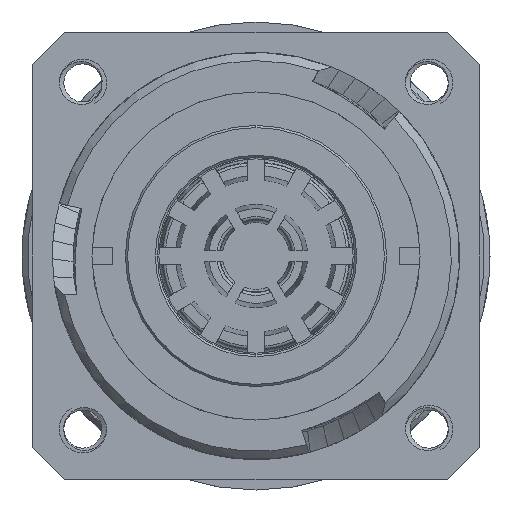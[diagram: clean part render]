
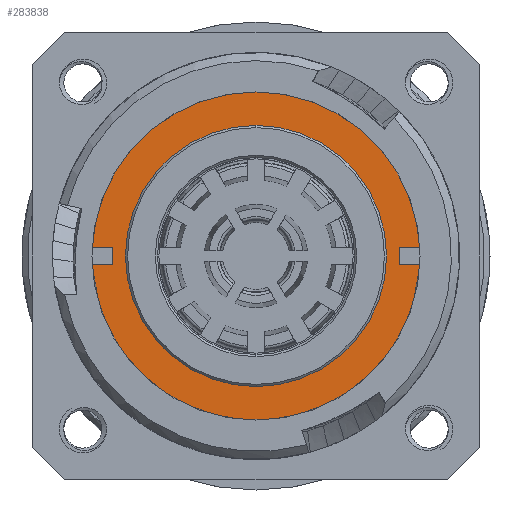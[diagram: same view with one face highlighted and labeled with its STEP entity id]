
A CAD part, left-side view. The second image highlights one B-rep face of the part: STEP entity #283838.
In plain terms, the highlighted planar face has unit normal (-1, 0, 0).
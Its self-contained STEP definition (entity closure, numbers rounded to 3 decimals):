
#89304=CARTESIAN_POINT('',(17.8,0.,0.));
#89305=DIRECTION('',(1.,0.,0.));
#89306=DIRECTION('',(0.,-0.999,0.055));
#89307=AXIS2_PLACEMENT_3D('',#89304,#89305,#89306);
#89309=CARTESIAN_POINT('',(17.8,0.,0.));
#89310=DIRECTION('',(-1.,0.,0.));
#89311=DIRECTION('',(0.,-1.,0.));
#89312=AXIS2_PLACEMENT_3D('',#89309,#89310,#89311);
#89314=CARTESIAN_POINT('',(17.8,0.,0.));
#89315=DIRECTION('',(1.,0.,0.));
#89316=DIRECTION('',(0.,-1.,0.));
#89317=AXIS2_PLACEMENT_3D('',#89314,#89315,#89316);
#89335=CARTESIAN_POINT('',(17.8,0.,0.));
#89336=DIRECTION('',(-1.,0.,0.));
#89337=DIRECTION('',(0.,-0.999,0.055));
#89338=AXIS2_PLACEMENT_3D('',#89335,#89336,#89337);
#95091=CARTESIAN_POINT('',(17.8,-12.,0.));
#95092=CARTESIAN_POINT('',(17.8,12.,0.));
#95093=VERTEX_POINT('',#95091);
#95094=VERTEX_POINT('',#95092);
#95609=CARTESIAN_POINT('',(17.8,15.052,0.825));
#95610=VERTEX_POINT('',#95609);
#95615=CARTESIAN_POINT('',(17.8,-15.052,0.825));
#95616=VERTEX_POINT('',#95615);
#283822=CARTESIAN_POINT('',(17.8,0.,0.));
#283823=DIRECTION('',(-1.,0.,0.));
#283824=DIRECTION('',(0.,1.,0.));
#283825=AXIS2_PLACEMENT_3D('',#283822,#283823,#283824);
#283826=PLANE('310',#283825);
#283828=ORIENTED_EDGE('9295',*,*,#283827,.F.);
#283829=ORIENTED_EDGE('9304',*,*,#283789,.T.);
#283830=EDGE_LOOP('310',(#283828,#283829));
#283831=FACE_OUTER_BOUND('310',#283830,.F.);
#283833=ORIENTED_EDGE('8698',*,*,#283832,.T.);
#283835=ORIENTED_EDGE('8697',*,*,#283834,.F.);
#283836=EDGE_LOOP('310',(#283833,#283835));
#283837=FACE_BOUND('310',#283836,.F.);
#89308=CIRCLE('9304',#89307,15.075);
#89313=CIRCLE('8698',#89312,12.);
#89318=CIRCLE('8697',#89317,12.);
#89339=CIRCLE('9295',#89338,15.075);
#283789=EDGE_CURVE('9304',#95616,#95610,#89308,.T.);
#283827=EDGE_CURVE('9295',#95616,#95610,#89339,.T.);
#283832=EDGE_CURVE('8698',#95093,#95094,#89313,.T.);
#283834=EDGE_CURVE('8697',#95093,#95094,#89318,.T.);
#283838=ADVANCED_FACE('310',(#283831,#283837),#283826,.T.);
